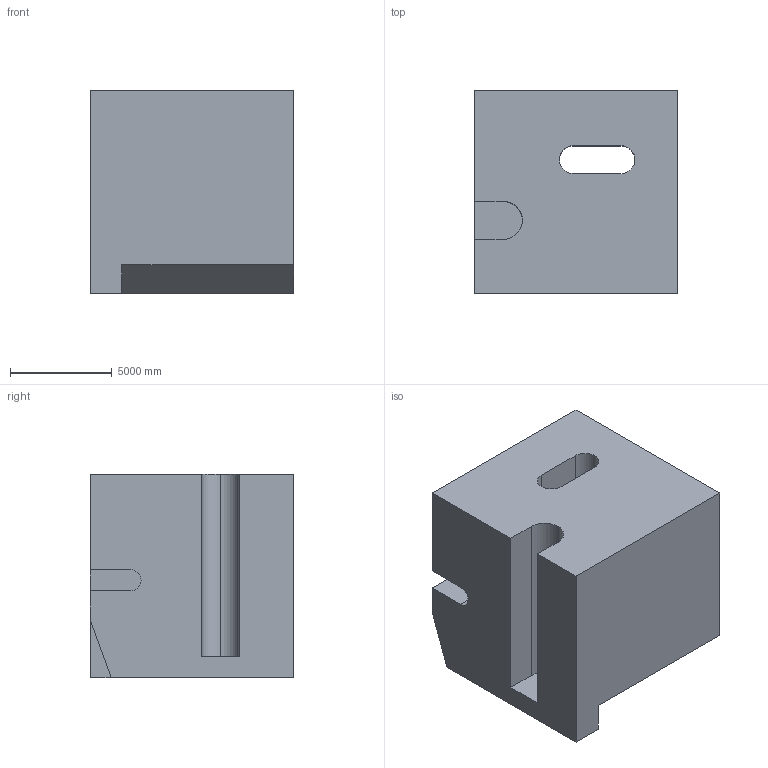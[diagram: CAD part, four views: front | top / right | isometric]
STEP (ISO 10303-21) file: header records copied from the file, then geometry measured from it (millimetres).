
FILE_DESCRIPTION (( 'STEP AP203' ), '1' );
FILE_NAME ('292.STEP', '2022-09-07T12:39:55', ( 'user' ), ( '' ), 'SwSTEP 2.0', 'SolidWorks 2021', '' );
FILE_SCHEMA (( 'CONFIG_CONTROL_DESIGN' ));
Length unit declared in the file: centimetre
Products named in the file (1): 292
Bounding box: 10000 x 10000 x 10000 mm (x, y, z)
Volume: 872718809171.7 mm3; surface area: 736727317.1 mm2
Topology: 1 solids, 1 shells, 24 faces, 66 edges, 44 vertices
Faces by surface type: plane 18, cylinder 6
Entity records: 843 total; most frequent: CARTESIAN_POINT 135, ORIENTED_EDGE 132, DIRECTION 128, EDGE_CURVE 66, LINE 54, VECTOR 54, VERTEX_POINT 44, AXIS2_PLACEMENT_3D 37
